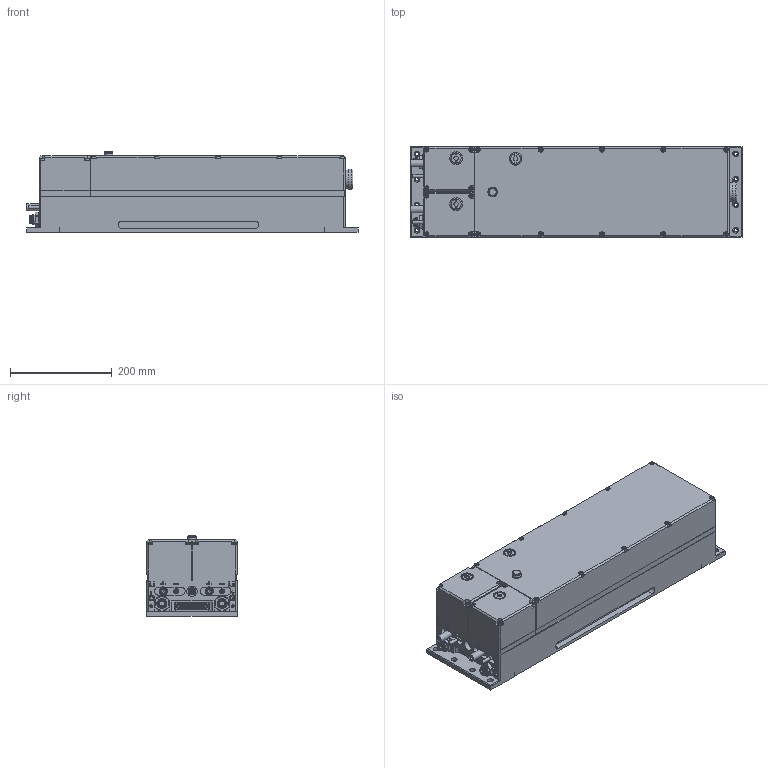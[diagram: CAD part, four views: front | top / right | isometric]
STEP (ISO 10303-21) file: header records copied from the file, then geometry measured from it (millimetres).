
FILE_DESCRIPTION((''),'2;1');
FILE_NAME('C:\Users\User\Documents\Laserdummy\IS Philips\0201-IS Laser.stp','2011-06-07T12:02:31',('User'),(''),'Autodesk Inventor 2010','Autodesk Inventor 2010','');
FILE_SCHEMA(('AUTOMOTIVE_DESIGN { 1 0 10303 214 1 1 1 1 }'));
Products named in the file (14): 0201-IS Laser; TrockenPatrone; Lamb; Austrittshülse; Flansher; U-Tür; Stromanschluss(minus); Stromanschluss(plus); Wasseranschluss-IS; DIN 912 - ersetzt durch DIN EN ISO 4762 M5 x 40; D-Sub Crimpanschluss, Stecker D-Sub Male Crimp 37CKT; DIN 912 - ersetzt durch DIN EN ISO 4762 M3 x 5; DIN 7991 M4x8
Assembly tree (40 placements, depth 2):
  0201-IS Laser
    0201-IS Laser
    TrockenPatrone  x3
    Lamb
    Austrittshülse
    Flansher
    U-Tür  x2
    Stromanschluss(minus)  x2
    Stromanschluss(plus)  x2
    Wasseranschluss-IS  x2
    DIN 912 - ersetzt durch DIN EN ISO 4762 M5 x 40  x18
    D-Sub Crimpanschluss, Stecker D-Sub Male Crimp 37CKT
    DIN 912 - ersetzt durch DIN EN ISO 4762 M3 x 5  x2
    DIN 7991 M4x8  x4
Bounding box: 651 x 178 x 158 mm (x, y, z)
Volume: 15843211.3 mm3; surface area: 650188.3 mm2
Topology: 40 solids, 40 shells, 1190 faces, 2671 edges, 1740 vertices
Faces by surface type: plane 652, cylinder 291, bspline 137, cone 69, torus 41
Full cylindrical faces by diameter (mm): 1 x6, 1.067 x37, 2.21 x37, 2.599 x1, 3 x2, 3.048 x2, 4 x5, 4.5 x4, 4.917 x1, 5 x18, 5.5 x3, 5.6 x1, 6 x2, 7.5 x2, 8 x4, 8.5 x18, 9 x1, 10 x6, 10.75 x2, 13.2 x3, 13.8 x2, 14 x1, 15 x3, 15.2 x2, 15.8 x3, 16 x5, 16.7 x2, 18.75 x2, 19.7 x2, 20 x3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
Entity records: 22098 total; most frequent: CARTESIAN_POINT 5140, DIRECTION 3464, ORIENTED_EDGE 2912, EDGE_CURVE 1456, AXIS2_PLACEMENT_3D 1312, EDGE_LOOP 1204, VERTEX_POINT 1100, VECTOR 840
